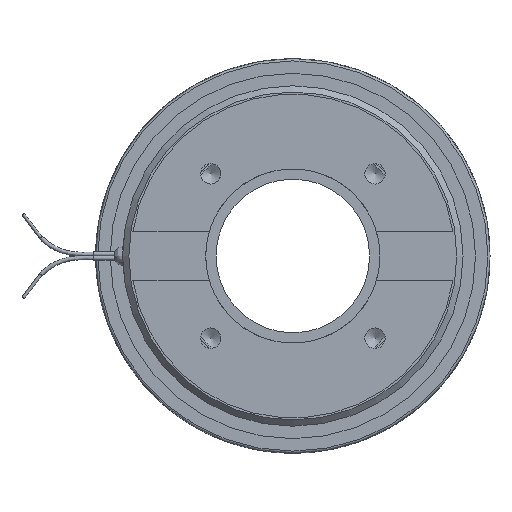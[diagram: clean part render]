
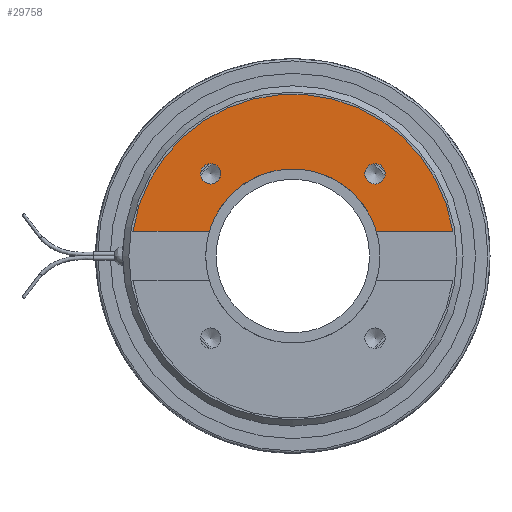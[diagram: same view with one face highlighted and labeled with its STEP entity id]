
A CAD part, left-side view. The second image highlights one B-rep face of the part: STEP entity #29758.
In plain terms, the highlighted planar face has unit normal (-1, 0, 0).
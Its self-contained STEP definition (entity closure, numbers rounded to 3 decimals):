
#2115=LINE('',#46644,#3814);
#2116=LINE('',#46648,#3815);
#3814=VECTOR('',#35953,10.);
#3815=VECTOR('',#35956,10.);
#5570=FACE_BOUND('',#7248,.T.);
#5571=FACE_BOUND('',#7249,.T.);
#5654=FACE_OUTER_BOUND('',#7247,.T.);
#7247=EDGE_LOOP('',(#17707,#17708,#17709,#17710));
#7248=EDGE_LOOP('',(#17711));
#7249=EDGE_LOOP('',(#17712));
#8880=CIRCLE('',#31416,2.459);
#8884=CIRCLE('',#31422,2.459);
#8892=CIRCLE('',#31438,21.);
#8893=CIRCLE('',#31439,39.);
#9851=VERTEX_POINT('',#46579);
#9854=VERTEX_POINT('',#46590);
#9862=VERTEX_POINT('',#46642);
#9863=VERTEX_POINT('',#46643);
#9864=VERTEX_POINT('',#46645);
#9865=VERTEX_POINT('',#46647);
#12939=EDGE_CURVE('',#9851,#9851,#8880,.T.);
#12945=EDGE_CURVE('',#9854,#9854,#8884,.T.);
#12962=EDGE_CURVE('',#9862,#9863,#2115,.T.);
#12963=EDGE_CURVE('',#9863,#9864,#8892,.T.);
#12964=EDGE_CURVE('',#9864,#9865,#2116,.T.);
#12965=EDGE_CURVE('',#9862,#9865,#8893,.T.);
#17707=ORIENTED_EDGE('',*,*,#12962,.T.);
#17708=ORIENTED_EDGE('',*,*,#12963,.T.);
#17709=ORIENTED_EDGE('',*,*,#12964,.T.);
#17710=ORIENTED_EDGE('',*,*,#12965,.F.);
#17711=ORIENTED_EDGE('',*,*,#12939,.T.);
#17712=ORIENTED_EDGE('',*,*,#12945,.T.);
#26720=PLANE('',#31437);
#29758=ADVANCED_FACE('',(#5654,#5570,#5571),#26720,.T.);
#31416=AXIS2_PLACEMENT_3D('',#46580,#35900,#35901);
#31422=AXIS2_PLACEMENT_3D('',#46591,#35914,#35915);
#31437=AXIS2_PLACEMENT_3D('',#46641,#35951,#35952);
#31438=AXIS2_PLACEMENT_3D('',#46646,#35954,#35955);
#31439=AXIS2_PLACEMENT_3D('',#46649,#35957,#35958);
#35900=DIRECTION('center_axis',(1.,0.,0.));
#35901=DIRECTION('ref_axis',(0.,0.,1.));
#35914=DIRECTION('center_axis',(1.,0.,0.));
#35915=DIRECTION('ref_axis',(0.,0.,1.));
#35951=DIRECTION('center_axis',(-1.,0.,0.));
#35952=DIRECTION('ref_axis',(0.,0.,1.));
#35953=DIRECTION('',(0.,-1.,0.));
#35954=DIRECTION('center_axis',(1.,0.,0.));
#35955=DIRECTION('ref_axis',(0.,1.,0.));
#35956=DIRECTION('',(0.,-1.,0.));
#35957=DIRECTION('center_axis',(1.,0.,0.));
#35958=DIRECTION('ref_axis',(0.,1.,0.));
#46579=CARTESIAN_POINT('',(-12.5,-19.799,17.34));
#46580=CARTESIAN_POINT('Origin',(-12.5,-19.799,19.799));
#46590=CARTESIAN_POINT('',(-12.5,19.799,17.34));
#46591=CARTESIAN_POINT('Origin',(-12.5,19.799,19.799));
#46641=CARTESIAN_POINT('Origin',(-12.5,30.,0.));
#46642=CARTESIAN_POINT('',(-12.5,38.536,6.));
#46643=CARTESIAN_POINT('',(-12.5,20.125,6.));
#46644=CARTESIAN_POINT('',(-12.5,37.5,6.));
#46645=CARTESIAN_POINT('',(-12.5,-20.125,6.));
#46646=CARTESIAN_POINT('Origin',(-12.5,0.,0.));
#46647=CARTESIAN_POINT('',(-12.5,-38.536,6.));
#46648=CARTESIAN_POINT('',(-12.5,37.5,6.));
#46649=CARTESIAN_POINT('Origin',(-12.5,0.,0.));
